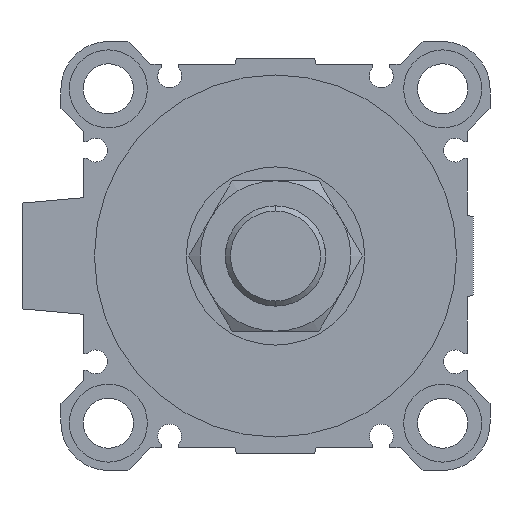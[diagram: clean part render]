
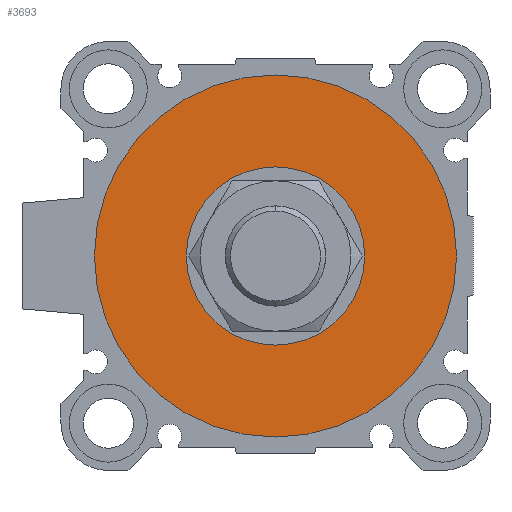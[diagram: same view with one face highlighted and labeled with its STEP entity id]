
A CAD part, left-side view. The second image highlights one B-rep face of the part: STEP entity #3693.
In plain terms, the highlighted planar face has unit normal (-1, 0, 0).
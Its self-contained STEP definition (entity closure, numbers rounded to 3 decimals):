
#37 = DIRECTION ( 'NONE',  ( 0., 1., 0. ) ) ;
#196 = EDGE_CURVE ( 'NONE', #2933, #5564, #6469, .T. ) ;
#387 = DIRECTION ( 'NONE',  ( 1., 0., 0. ) ) ;
#579 = FACE_OUTER_BOUND ( 'NONE', #4913, .T. ) ;
#619 = PLANE ( 'NONE',  #1029 ) ;
#676 = VERTEX_POINT ( 'NONE', #4870 ) ;
#909 = AXIS2_PLACEMENT_3D ( 'NONE', #7471, #7510, #3892 ) ;
#1029 = AXIS2_PLACEMENT_3D ( 'NONE', #3508, #2940, #37 ) ;
#1118 = DIRECTION ( 'NONE',  ( 0., 0., -1. ) ) ;
#1385 = EDGE_CURVE ( 'NONE', #676, #3503, #6551, .T. ) ;
#1686 = DIRECTION ( 'NONE',  ( 1., 0., 0. ) ) ;
#1764 = DIRECTION ( 'NONE',  ( 0., 0., -1. ) ) ;
#1801 = ORIENTED_EDGE ( 'NONE', *, *, #4533, .F. ) ;
#1855 = CARTESIAN_POINT ( 'NONE',  ( 4., 0., 0. ) ) ;
#2290 = FACE_BOUND ( 'NONE', #7039, .T. ) ;
#2430 = DIRECTION ( 'NONE',  ( 0., 0., -1. ) ) ;
#2567 = ORIENTED_EDGE ( 'NONE', *, *, #196, .F. ) ;
#2933 = VERTEX_POINT ( 'NONE', #3181 ) ;
#2940 = DIRECTION ( 'NONE',  ( 1., 0., 0. ) ) ;
#3092 = CIRCLE ( 'NONE', #909, 32.5 ) ;
#3169 = AXIS2_PLACEMENT_3D ( 'NONE', #1855, #5327, #2430 ) ;
#3181 = CARTESIAN_POINT ( 'NONE',  ( 4., 0., -32.5 ) ) ;
#3209 = CARTESIAN_POINT ( 'NONE',  ( 4., 0., 32.5 ) ) ;
#3503 = VERTEX_POINT ( 'NONE', #5681 ) ;
#3508 = CARTESIAN_POINT ( 'NONE',  ( 4., 0., 0. ) ) ;
#3693 = ADVANCED_FACE ( 'NONE', ( #579, #2290 ), #619, .F. ) ;
#3892 = DIRECTION ( 'NONE',  ( 0., 0., -1. ) ) ;
#4010 = CARTESIAN_POINT ( 'NONE',  ( 4., 0., 0. ) ) ;
#4533 = EDGE_CURVE ( 'NONE', #5564, #2933, #3092, .T. ) ;
#4557 = CARTESIAN_POINT ( 'NONE',  ( 4., 0., 0. ) ) ;
#4616 = CIRCLE ( 'NONE', #5587, 16. ) ;
#4870 = CARTESIAN_POINT ( 'NONE',  ( 4., 0., 16. ) ) ;
#4913 = EDGE_LOOP ( 'NONE', ( #1801, #2567 ) ) ;
#5327 = DIRECTION ( 'NONE',  ( 1., 0., 0. ) ) ;
#5564 = VERTEX_POINT ( 'NONE', #3209 ) ;
#5587 = AXIS2_PLACEMENT_3D ( 'NONE', #4010, #387, #1118 ) ;
#5681 = CARTESIAN_POINT ( 'NONE',  ( 4., 0., -16. ) ) ;
#5784 = EDGE_CURVE ( 'NONE', #3503, #676, #4616, .T. ) ;
#6284 = ORIENTED_EDGE ( 'NONE', *, *, #1385, .T. ) ;
#6425 = AXIS2_PLACEMENT_3D ( 'NONE', #4557, #1686, #1764 ) ;
#6469 = CIRCLE ( 'NONE', #3169, 32.5 ) ;
#6551 = CIRCLE ( 'NONE', #6425, 16. ) ;
#6795 = ORIENTED_EDGE ( 'NONE', *, *, #5784, .T. ) ;
#7039 = EDGE_LOOP ( 'NONE', ( #6284, #6795 ) ) ;
#7471 = CARTESIAN_POINT ( 'NONE',  ( 4., 0., 0. ) ) ;
#7510 = DIRECTION ( 'NONE',  ( 1., 0., 0. ) ) ;
